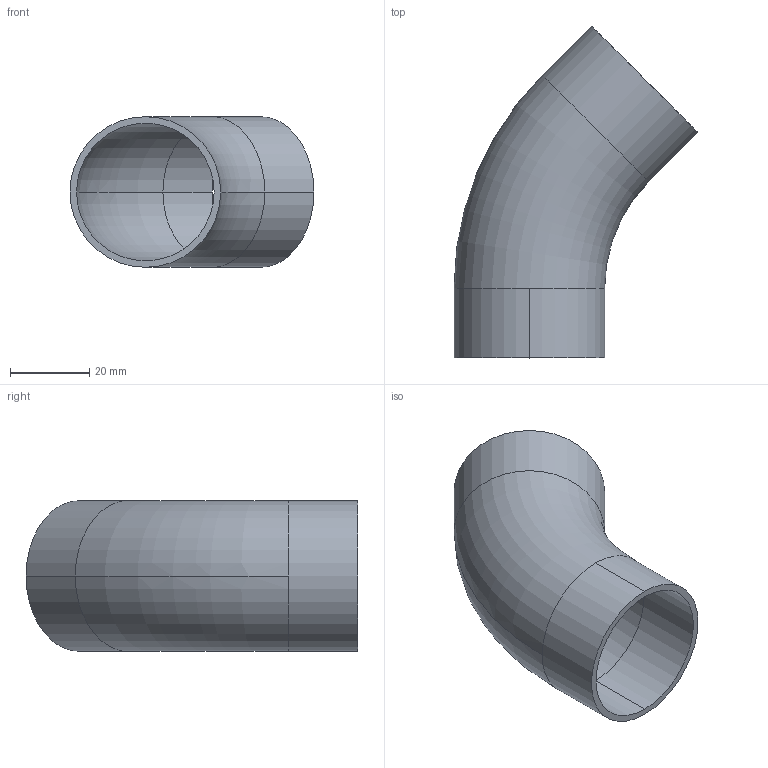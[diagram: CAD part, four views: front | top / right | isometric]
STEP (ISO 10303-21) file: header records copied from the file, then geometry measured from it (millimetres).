
FILE_DESCRIPTION (( 'STEP AP203' ), '1' );
FILE_NAME ('E2KS1.5.STEP', '2018-04-30T15:50:54', ( 'vneprd' ), ( 'Microsoft' ), 'SwSTEP 2.0', 'SolidWorks 2014', '' );
FILE_SCHEMA (( 'CONFIG_CONTROL_DESIGN' ));
Length unit declared in the file: inch
Products named in the file (1): E2KS1.5
Bounding box: 61.71 x 83.93 x 38.1 mm (x, y, z)
Volume: 15141.4 mm3; surface area: 18720.2 mm2
Topology: 1 solids, 1 shells, 14 faces, 32 edges, 20 vertices
Faces by surface type: cylinder 8, torus 4, plane 2
Entity records: 491 total; most frequent: DIRECTION 86, CARTESIAN_POINT 67, ORIENTED_EDGE 64, AXIS2_PLACEMENT_3D 39, EDGE_CURVE 32, CIRCLE 24, VERTEX_POINT 20, EDGE_LOOP 16
